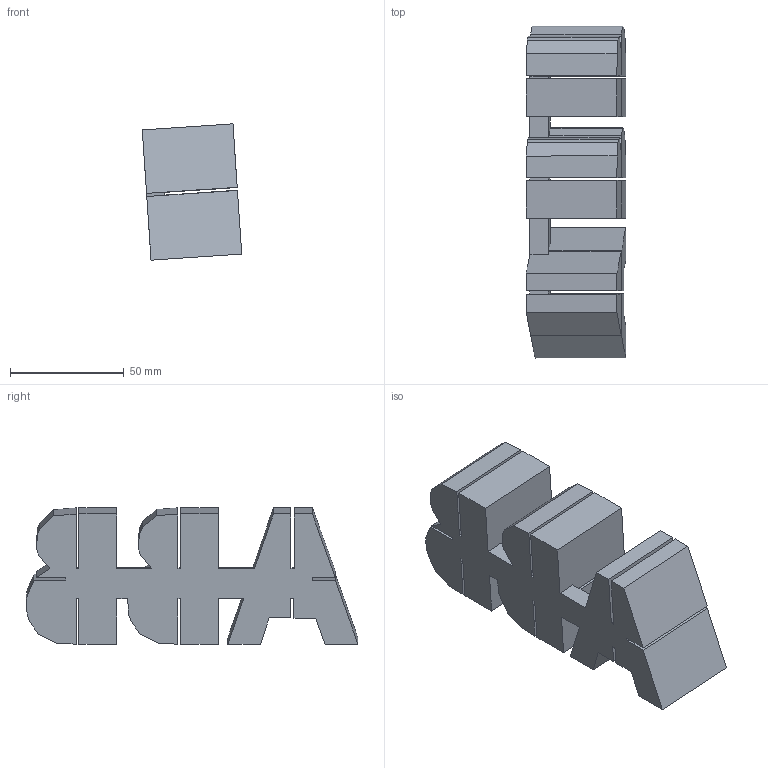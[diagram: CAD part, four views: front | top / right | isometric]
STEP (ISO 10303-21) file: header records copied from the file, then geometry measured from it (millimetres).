
FILE_DESCRIPTION (( 'STEP AP214' ), '1' );
FILE_NAME ('IRB4400_60-195_IRC5_rev02_LOGO02_CAD.STEP', '2016-11-03T06:48:46', ( 'ABB' ), ( 'ABB' ), 'SwSTEP 2.0', 'SolidWorks 2014', '' );
FILE_SCHEMA (( 'AUTOMOTIVE_DESIGN' ));
Length unit declared in the file: millimetre
Products named in the file (1): IRB4400_60-195_IRC5_rev02_LOGO02_CAD
Bounding box: 43.76 x 146.13 x 60.01 mm (x, y, z)
Volume: 224238.7 mm3; surface area: 53564 mm2
Topology: 1 solids, 1 shells, 104 faces, 299 edges, 197 vertices
Faces by surface type: plane 104
Entity records: 3361 total; most frequent: CARTESIAN_POINT 601, ORIENTED_EDGE 598, DIRECTION 509, EDGE_CURVE 299, LINE 299, VECTOR 299, VERTEX_POINT 197, AXIS2_PLACEMENT_3D 105
